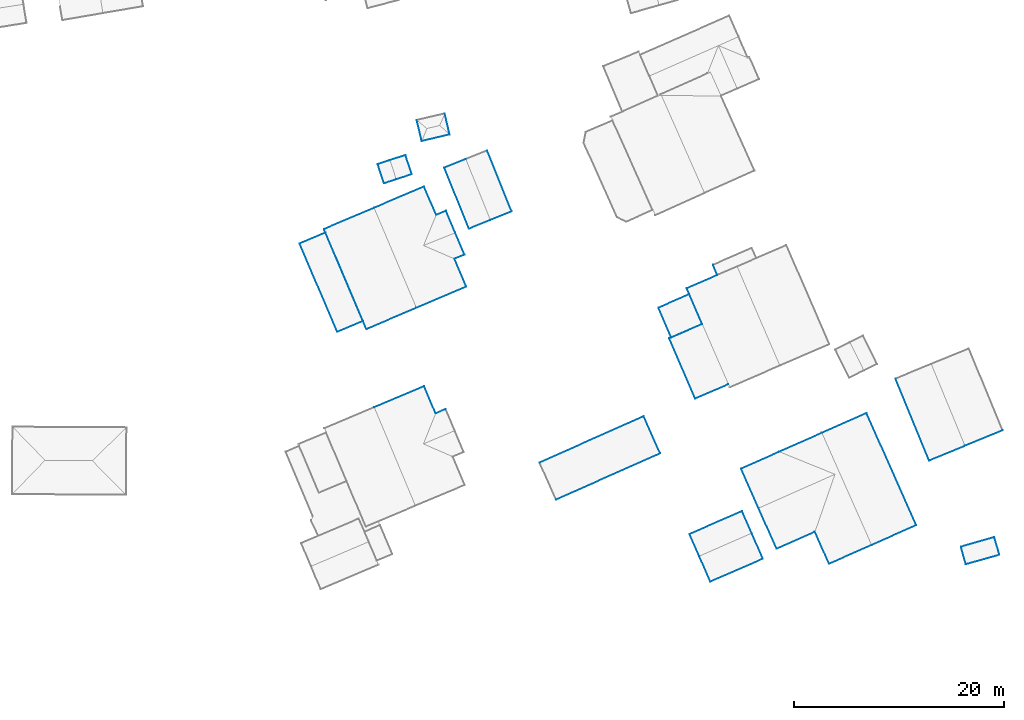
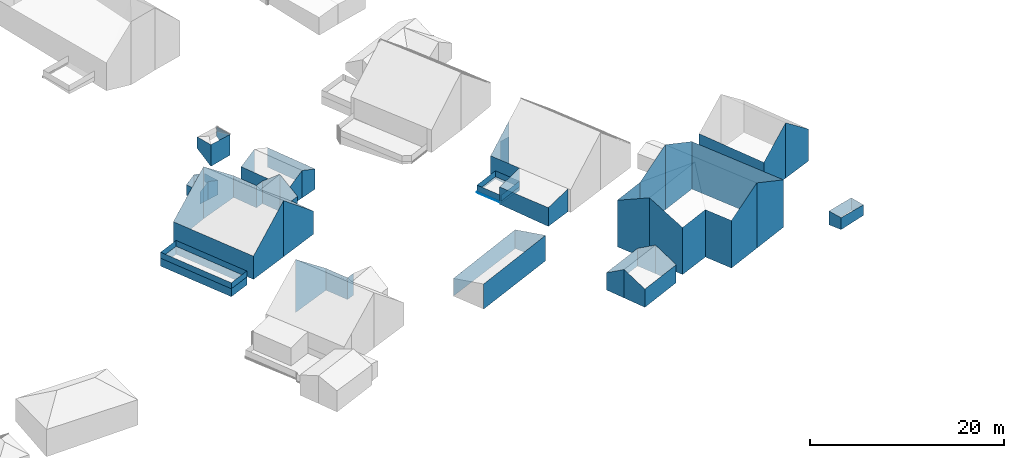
# Not in any storey, part 33 of 59: 84 walls.
"""IFC4 building model written with IfcOpenShell, lengths in metres."""

import ifcopenshell
import ifcopenshell.guid

model = None  # the IFC model being written
_history = None  # IfcOwnerHistory: only IFC2X3 demands one
_inside = {}  # id of a spatial element -> (the spatial element, [elements in it])
_under = {}  # id of a project, library or spatial element -> (it, [spatial elements below it])
_declared = {}  # id of a project -> (the project, [libraries it declares])
_typed = {}  # id of a type object -> (the type object, [elements of that type])
_made_of = {}  # id of a material, layer set ... -> (it, [elements and type objects made of it])


def new_model(schema):
    """Start an empty IFC model of exactly this schema.

    Asked for "IFC4X3", IfcOpenShell would pick the latest addendum, in which some entities
    have other attributes; the version numbers below select the first issue.
    IFC2X3 requires an IfcOwnerHistory on every rooted entity: one is made here for all.
    """
    global model, _history
    if schema == "IFC4X3":
        model = ifcopenshell.file(schema_version=(4, 3, 0, 0))
    else:
        model = ifcopenshell.file(schema=schema)
    _inside.clear()
    _under.clear()
    _declared.clear()
    _typed.clear()
    _made_of.clear()
    _history = None
    if model.schema == "IFC2X3":
        org = make("IfcOrganization", Name="unknown")
        user = make(
            "IfcPersonAndOrganization",
            ThePerson=make("IfcPerson", FamilyName="unknown"),
            TheOrganization=org,
        )
        app = make(
            "IfcApplication",
            ApplicationDeveloper=org,
            Version="unknown",
            ApplicationFullName="unknown",
            ApplicationIdentifier="unknown",
        )
        _history = make(
            "IfcOwnerHistory",
            OwningUser=user,
            OwningApplication=app,
            ChangeAction="ADDED",
            CreationDate=0,
        )
    return model


def make(cls, **values):
    """One entity of the class cls with the attributes given. An attribute that is None is left unset."""
    return model.create_entity(
        cls, **{name: value for name, value in values.items() if value is not None}
    )


def entity(cls, *values):
    """Any entity or typed value of the class cls, its attributes in the order of the schema. None: left unset."""
    e = model.create_entity(cls)
    for i, value in enumerate(values):
        if value is not None:
            e[i] = value
    return e


def rooted(cls, **values):
    """An entity with a GlobalId (a new one), such as an element, a storey or a relation."""
    return make(cls, GlobalId=ifcopenshell.guid.new(), OwnerHistory=_history, **values)


def si_unit(unit_type, name, prefix=None):
    """IfcSIUnit, for example si_unit("LENGTHUNIT", "METRE", prefix="MILLI")."""
    return make("IfcSIUnit", UnitType=unit_type, Prefix=prefix, Name=name)


def converted_unit(unit_type, name, factor, base, dimensions=None, offset=None):
    """IfcConversionBasedUnit, such as the inch: factor (a typed value) times the base unit."""
    return make(
        "IfcConversionBasedUnit"
        if offset is None
        else "IfcConversionBasedUnitWithOffset",
        ConversionOffset=offset,
        Dimensions=None
        if dimensions is None
        else entity("IfcDimensionalExponents", *dimensions),
        UnitType=unit_type,
        Name=name,
        ConversionFactor=make(
            "IfcMeasureWithUnit", ValueComponent=factor, UnitComponent=base
        ),
    )


def assignment(units):
    """IfcUnitAssignment: the units of a project."""
    return None if units is None else make("IfcUnitAssignment", Units=units)


def point(xyz):
    """IfcCartesianPoint."""
    return None if xyz is None else make("IfcCartesianPoint", Coordinates=xyz)


def direction(xyz):
    """IfcDirection."""
    return None if xyz is None else make("IfcDirection", DirectionRatios=xyz)


def frame(location, z_axis=None, x_axis=None):
    """IfcAxis2Placement3D, a coordinate frame: its origin and axes. An axis left out is left unset."""
    return make(
        "IfcAxis2Placement3D",
        Location=point(location),
        Axis=direction(z_axis),
        RefDirection=direction(x_axis),
    )


def origin():
    """The frame at (0, 0, 0) with its axes left unset."""
    return frame((0.0, 0.0, 0.0))


def place(relative_to, where):
    """IfcLocalPlacement: puts the frame where relative to a parent placement (None: the world)."""
    return make(
        "IfcLocalPlacement", PlacementRelTo=relative_to, RelativePlacement=where
    )


def context(
    kind, dimensions, precision=None, world=None, true_north=None, identifier=None
):
    """IfcGeometricRepresentationContext, for example the 3D "Model" context."""
    return make(
        "IfcGeometricRepresentationContext",
        ContextIdentifier=identifier,
        ContextType=kind,
        CoordinateSpaceDimension=dimensions,
        Precision=precision,
        WorldCoordinateSystem=world,
        TrueNorth=true_north,
    )


def subcontext(parent, identifier, kind, view, scale=None):
    """IfcGeometricRepresentationSubContext, for example "Body" below "Model"."""
    return make(
        "IfcGeometricRepresentationSubContext",
        ContextIdentifier=identifier,
        ContextType=kind,
        ParentContext=parent,
        TargetScale=scale,
        TargetView=view,
    )


def project(units=None, contexts=None):
    """IfcProject with its units and contexts."""
    return rooted(
        "IfcProject",
        Name="project",
        RepresentationContexts=contexts,
        UnitsInContext=assignment(units),
    )


def spatial(cls, under=None, at=None, **own):
    """A site, building, storey or space (cls), placed at a placement, below another one or the project."""
    s = rooted(cls, ObjectPlacement=at, **own)
    if under is not None:
        _under.setdefault(under.id(), (under, []))[1].append(s)
    return s


def faces_of(points, faces, orient=None, outer=None):
    """IfcFace entities. A face is a list of loops; a loop is a list of indices into points, from 0.

    orient and outer hold one flag for each loop. By default every Orientation is true, the
    first loop of a face is its IfcFaceOuterBound and the others are IfcFaceBound.
    """
    made = []
    for i, loops in enumerate(faces):
        bounds = []
        for j, loop in enumerate(loops):
            is_outer = j == 0 if outer is None else outer[i][j]
            bounds.append(
                make(
                    "IfcFaceOuterBound" if is_outer else "IfcFaceBound",
                    Bound=make("IfcPolyLoop", Polygon=[points[k] for k in loop]),
                    Orientation=True if orient is None else orient[i][j],
                )
            )
        made.append(make("IfcFace", Bounds=bounds))
    return made


def face_set(faces, orient=None, outer=None):
    """The faces of one IfcConnectedFaceSet. surface_model builds it on its shared points."""
    return ("IfcConnectedFaceSet", faces, orient, outer)


def surface_model(cls, points, shells):
    """IfcFaceBasedSurfaceModel or IfcShellBasedSurfaceModel (cls): surfaces that need not close."""
    shared = [point(p) for p in points]
    made = [make(c, CfsFaces=faces_of(shared, fs, o, b)) for c, fs, o, b in shells]
    if cls == "IfcFaceBasedSurfaceModel":
        return make(cls, FbsmFaces=made)
    return make(cls, SbsmBoundary=made)


def shape(context_of_items, identifier, shape_type, items):
    """IfcShapeRepresentation: the items that make up one representation, for example the "Body"."""
    return make(
        "IfcShapeRepresentation",
        ContextOfItems=context_of_items,
        RepresentationIdentifier=identifier,
        RepresentationType=shape_type,
        Items=items,
    )


def made_of(thing, what):
    """Note that an element or type object is made of a material, layer set ...; save() writes the relation."""
    if what is not None:
        _made_of.setdefault(what.id(), (what, []))[1].append(thing)
    return thing


def element(
    cls,
    number,
    at=None,
    inside=None,
    cuts=None,
    type_object=None,
    material=None,
    context=None,
    identifier="Body",
    shape_type=None,
    held_by="IfcProductDefinitionShape",
    body=None,
    shapes=None,
    **own,
):
    """One element of the class cls, such as IfcWall. Its Tag is "e" and its number.

    at: its placement. inside: the storey or other place that contains it. cuts: it is an
    opening in that element (IfcRelVoidsElement). A single representation is given by context,
    identifier, shape_type and body (its items); several are given by shapes. held_by: the class
    of the entity that holds the representations. save() writes the other relations.
    """
    e = rooted(cls, Tag="e%d" % number, ObjectPlacement=at, **own)
    if body is not None:
        shapes = [shape(context, identifier, shape_type, body)]
    if shapes is not None:
        e.Representation = make(held_by, Representations=shapes)
    if inside is not None:
        _inside.setdefault(inside.id(), (inside, []))[1].append(e)
    if cuts is not None:
        rooted(
            "IfcRelVoidsElement", RelatingBuildingElement=cuts, RelatedOpeningElement=e
        )
    if type_object is not None:
        _typed.setdefault(type_object.id(), (type_object, []))[1].append(e)
    return made_of(e, material)


def aggregate(whole, parts):
    """IfcRelAggregates: a whole, such as a stair, and the parts it consists of."""
    return rooted("IfcRelAggregates", RelatingObject=whole, RelatedObjects=parts)


def save(model, path):
    """Write the relations noted so far, then the file.

    IfcRelAggregates (storeys below a building ...), IfcRelContainedInSpatialStructure (elements
    in a storey), IfcRelDefinesByType, IfcRelAssociatesMaterial and IfcRelDeclares: one each for
    every whole, place, type object, material and project.
    """
    for whole, parts in _under.values():
        aggregate(whole, parts)
    for where, things in _inside.values():
        rooted(
            "IfcRelContainedInSpatialStructure",
            RelatedElements=things,
            RelatingStructure=where,
        )
    for kind, things in _typed.values():
        rooted("IfcRelDefinesByType", RelatedObjects=things, RelatingType=kind)
    for what, things in _made_of.values():
        rooted("IfcRelAssociatesMaterial", RelatedObjects=things, RelatingMaterial=what)
    for by, libraries in _declared.values():
        rooted("IfcRelDeclares", RelatingContext=by, RelatedDefinitions=libraries)
    model.write(path)


model = new_model("IFC4")

# Units and contexts
model_context = context("Model", 3, precision=1e-05, world=origin())
body_context = subcontext(model_context, "Body", "Model", "MODEL_VIEW")
ifc_project = project(units=[converted_unit("PLANEANGLEUNIT", "DEGREE", entity("IfcRatioMeasure", 0.0174532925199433), si_unit("PLANEANGLEUNIT", "RADIAN"), dimensions=[0, 0, 0, 0, 0, 0, 0]), si_unit("AREAUNIT", "SQUARE_METRE"), si_unit("LENGTHUNIT", "METRE")], contexts=[model_context])

# Site, building
site_placement = place(None, origin())
site = spatial("IfcSite", under=ifc_project, at=site_placement, Name="_site")
building_1_placement = place(site_placement, origin())
building_1 = spatial("IfcBuilding", under=site, at=building_1_placement, Name="_building")

# Walls
wall_1_placement = place(building_1_placement, origin())
element("IfcWall", 1, at=wall_1_placement, inside=building_1, Name="Wall", PredefinedType="NOTDEFINED", context=body_context, shape_type="SurfaceModel", body=[
    surface_model("IfcFaceBasedSurfaceModel", [(244.68, 198.119, 221.99), (248.72, 199.91, 224.23), (248.72, 199.91, 216.034), (244.68, 198.119, 216.092)], [face_set([[[0, 1, 2, 3]]])]),
])
wall_2_placement = place(building_1_placement, origin())
element("IfcWall", 2, at=wall_2_placement, inside=building_1, Name="Wall", PredefinedType="NOTDEFINED", context=body_context, shape_type="SurfaceModel", body=[
    surface_model("IfcFaceBasedSurfaceModel", [(253.45, 189.25, 224.23), (249.41, 187.461, 221.99), (249.41, 187.461, 216.009), (253.45, 189.25, 216.008)], [face_set([[[0, 1, 2, 3]]])]),
])
wall_3_placement = place(building_1_placement, origin())
element("IfcWall", 3, at=wall_3_placement, inside=building_1, Name="Wall", PredefinedType="NOTDEFINED", context=body_context, shape_type="SurfaceModel", body=[
    surface_model("IfcFaceBasedSurfaceModel", [(257.7, 191.131, 221.99), (253.45, 189.25, 224.23), (253.45, 189.25, 216.008), (257.7, 191.131, 216.008)], [face_set([[[0, 1, 2, 3]]])]),
])
wall_4_placement = place(building_1_placement, origin())
element("IfcWall", 4, at=wall_4_placement, inside=building_1, Name="Wall", PredefinedType="NOTDEFINED", context=body_context, shape_type="SurfaceModel", body=[
    surface_model("IfcFaceBasedSurfaceModel", [(248.72, 199.91, 224.23), (252.97, 201.801, 221.99), (252.97, 201.801, 216.002), (248.72, 199.91, 216.034)], [face_set([[[0, 1, 2, 3]]])]),
])
wall_5_placement = place(building_1_placement, origin())
element("IfcWall", 5, at=wall_5_placement, inside=building_1, Name="Wall", PredefinedType="NOTDEFINED", context=body_context, shape_type="SurfaceModel", body=[
    surface_model("IfcFaceBasedSurfaceModel", [(242.7, 192.76, 223.99), (241.04, 196.51, 221.99), (241.04, 196.51, 216.143), (242.7, 192.76, 216.111)], [face_set([[[0, 1, 2, 3]]])]),
])
wall_6_placement = place(building_1_placement, origin())
element("IfcWall", 6, at=wall_6_placement, inside=building_1, Name="Wall", PredefinedType="NOTDEFINED", context=body_context, shape_type="SurfaceModel", body=[
    surface_model("IfcFaceBasedSurfaceModel", [(244.42, 188.891, 221.99), (242.7, 192.76, 223.99), (242.7, 192.76, 216.111), (244.42, 188.891, 216.076)], [face_set([[[0, 1, 2, 3]]])]),
])
wall_7_placement = place(building_1_placement, origin())
element("IfcWall", 7, at=wall_7_placement, inside=building_1, Name="Wall", PredefinedType="NOTDEFINED", context=body_context, shape_type="SurfaceModel", body=[
    surface_model("IfcFaceBasedSurfaceModel", [(241.04, 196.51, 221.99), (244.68, 198.119, 221.99), (244.68, 198.119, 216.092), (241.04, 196.51, 216.143)], [face_set([[[0, 1, 2, 3]]])]),
])
wall_8_placement = place(building_1_placement, origin())
element("IfcWall", 8, at=wall_8_placement, inside=building_1, Name="Wall", PredefinedType="NOTDEFINED", context=body_context, shape_type="SurfaceModel", body=[
    surface_model("IfcFaceBasedSurfaceModel", [(248.06, 190.51, 221.99), (244.42, 188.891, 221.99), (244.42, 188.891, 216.076), (248.06, 190.51, 216.024)], [face_set([[[0, 1, 2, 3]]])]),
])
wall_9_placement = place(building_1_placement, origin())
element("IfcWall", 9, at=wall_9_placement, inside=building_1, Name="Wall", PredefinedType="NOTDEFINED", context=body_context, shape_type="SurfaceModel", body=[
    surface_model("IfcFaceBasedSurfaceModel", [(249.41, 187.461, 221.99), (248.06, 190.51, 221.99), (248.06, 190.51, 216.024), (249.41, 187.461, 216.009)], [face_set([[[0, 1, 2, 3]]])]),
])
wall_10_placement = place(building_1_placement, origin())
element("IfcWall", 10, at=wall_10_placement, inside=building_1, Name="Wall", PredefinedType="NOTDEFINED", context=body_context, shape_type="SurfaceModel", body=[
    surface_model("IfcFaceBasedSurfaceModel", [(252.97, 201.801, 221.99), (257.7, 191.131, 221.99), (257.7, 191.131, 216.008), (252.97, 201.801, 216.002)], [face_set([[[0, 1, 2, 3]]])]),
])

# Building
building_2_placement = place(site_placement, origin())
building_2 = spatial("IfcBuilding", under=site, at=building_2_placement, Name="_building")

# Walls
wall_11_placement = place(building_2_placement, origin())
element("IfcWall", 11, at=wall_11_placement, inside=building_2, Name="Wall", PredefinedType="NOTDEFINED", context=body_context, shape_type="SurfaceModel", body=[
    surface_model("IfcFaceBasedSurfaceModel", [(265.61, 188.32, 217.78), (262.42, 187.41, 217.82), (262.42, 187.41, 216.321), (265.61, 188.32, 216.447)], [face_set([[[0, 1, 2, 3]]])]),
])
wall_12_placement = place(building_2_placement, origin())
element("IfcWall", 12, at=wall_12_placement, inside=building_2, Name="Wall", PredefinedType="NOTDEFINED", context=body_context, shape_type="SurfaceModel", body=[
    surface_model("IfcFaceBasedSurfaceModel", [(265.13, 189.99, 217.82), (265.61, 188.32, 217.78), (265.61, 188.32, 216.447), (265.13, 189.99, 216.212)], [face_set([[[0, 1, 2, 3]]])]),
])
wall_13_placement = place(building_2_placement, origin())
element("IfcWall", 13, at=wall_13_placement, inside=building_2, Name="Wall", PredefinedType="NOTDEFINED", context=body_context, shape_type="SurfaceModel", body=[
    surface_model("IfcFaceBasedSurfaceModel", [(261.95, 189.08, 217.82), (265.13, 189.99, 217.82), (265.13, 189.99, 216.212), (261.95, 189.08, 216.087)], [face_set([[[0, 1, 2, 3]]])]),
])
wall_14_placement = place(building_2_placement, origin())
element("IfcWall", 14, at=wall_14_placement, inside=building_2, Name="Wall", PredefinedType="NOTDEFINED", context=body_context, shape_type="SurfaceModel", body=[
    surface_model("IfcFaceBasedSurfaceModel", [(262.42, 187.41, 217.82), (261.95, 189.08, 217.82), (261.95, 189.08, 216.087), (262.42, 187.41, 216.321)], [face_set([[[0, 1, 2, 3]]])]),
])

# Building
building_3_placement = place(site_placement, origin())
building_3 = spatial("IfcBuilding", under=site, at=building_3_placement, Name="_building")

# Walls
wall_15_placement = place(building_3_placement, origin())
element("IfcWall", 15, at=wall_15_placement, inside=building_3, Name="Wall", PredefinedType="NOTDEFINED", context=body_context, shape_type="SurfaceModel", body=[
    surface_model("IfcFaceBasedSurfaceModel", [(262.33, 198.68, 222.97), (258.93, 197.279, 220.02), (258.93, 197.279, 216.005), (262.33, 198.68, 216.004)], [face_set([[[0, 1, 2, 3]]])]),
])
wall_16_placement = place(building_3_placement, origin())
element("IfcWall", 16, at=wall_16_placement, inside=building_3, Name="Wall", PredefinedType="NOTDEFINED", context=body_context, shape_type="SurfaceModel", body=[
    surface_model("IfcFaceBasedSurfaceModel", [(265.91, 200.16, 220.02), (262.33, 198.68, 222.97), (262.33, 198.68, 216.004), (265.91, 200.16, 216.002)], [face_set([[[0, 1, 2, 3]]])]),
])
wall_17_placement = place(building_3_placement, origin())
element("IfcWall", 17, at=wall_17_placement, inside=building_3, Name="Wall", PredefinedType="NOTDEFINED", context=body_context, shape_type="SurfaceModel", body=[
    surface_model("IfcFaceBasedSurfaceModel", [(258.93, 197.279, 220.02), (255.73, 205.07, 220.02), (255.73, 205.07, 216.001), (258.93, 197.279, 216.005)], [face_set([[[0, 1, 2, 3]]])]),
])

# Building
building_4_placement = place(site_placement, origin())
building_4 = spatial("IfcBuilding", under=site, at=building_4_placement, Name="_building")

# Walls
wall_18_placement = place(building_4_placement, origin())
element("IfcWall", 18, at=wall_18_placement, inside=building_4, Name="Wall", PredefinedType="NOTDEFINED", context=body_context, shape_type="SurfaceModel", body=[
    surface_model("IfcFaceBasedSurfaceModel", [(207.63, 225.859, 219.13), (209.11, 226.34, 218.48), (209.11, 226.34, 217.508), (207.63, 225.859, 217.347)], [face_set([[[0, 1, 2, 3]]])]),
])
wall_19_placement = place(building_4_placement, origin())
element("IfcWall", 19, at=wall_19_placement, inside=building_4, Name="Wall", PredefinedType="NOTDEFINED", context=body_context, shape_type="SurfaceModel", body=[
    surface_model("IfcFaceBasedSurfaceModel", [(206.48, 225.48, 218.48), (207.63, 225.859, 219.13), (207.63, 225.859, 217.347), (206.48, 225.48, 217.162)], [face_set([[[0, 1, 2, 3]]])]),
])
wall_20_placement = place(building_4_placement, origin())
element("IfcWall", 20, at=wall_20_placement, inside=building_4, Name="Wall", PredefinedType="NOTDEFINED", context=body_context, shape_type="SurfaceModel", body=[
    surface_model("IfcFaceBasedSurfaceModel", [(208.23, 224.029, 219.13), (207.07, 223.65, 218.48), (207.07, 223.65, 216.947), (208.23, 224.029, 216.84)], [face_set([[[0, 1, 2, 3]]])]),
])
wall_21_placement = place(building_4_placement, origin())
element("IfcWall", 21, at=wall_21_placement, inside=building_4, Name="Wall", PredefinedType="NOTDEFINED", context=body_context, shape_type="SurfaceModel", body=[
    surface_model("IfcFaceBasedSurfaceModel", [(209.71, 224.52, 218.48), (208.23, 224.029, 219.13), (208.23, 224.029, 216.84), (209.71, 224.52, 216.669)], [face_set([[[0, 1, 2, 3]]])]),
])
wall_22_placement = place(building_4_placement, origin())
element("IfcWall", 22, at=wall_22_placement, inside=building_4, Name="Wall", PredefinedType="NOTDEFINED", context=body_context, shape_type="SurfaceModel", body=[
    surface_model("IfcFaceBasedSurfaceModel", [(207.07, 223.65, 218.48), (206.48, 225.48, 218.48), (206.48, 225.48, 217.162), (207.07, 223.65, 216.947)], [face_set([[[0, 1, 2, 3]]])]),
])
wall_23_placement = place(building_4_placement, origin())
element("IfcWall", 23, at=wall_23_placement, inside=building_4, Name="Wall", PredefinedType="NOTDEFINED", context=body_context, shape_type="SurfaceModel", body=[
    surface_model("IfcFaceBasedSurfaceModel", [(209.11, 226.34, 218.48), (209.71, 224.52, 218.48), (209.71, 224.52, 216.669), (209.11, 226.34, 217.508)], [face_set([[[0, 1, 2, 3]]])]),
])

# Building
building_5_placement = place(site_placement, origin())
building_5 = spatial("IfcBuilding", under=site, at=building_5_placement, Name="_building")

# Walls
wall_24_placement = place(building_5_placement, origin())
element("IfcWall", 24, at=wall_24_placement, inside=building_5, Name="Wall", PredefinedType="NOTDEFINED", context=body_context, shape_type="SurfaceModel", body=[
    surface_model("IfcFaceBasedSurfaceModel", [(235.87, 213.66, 218.99), (238.78, 214.93, 221.57), (238.78, 214.93, 216.201), (235.87, 213.66, 216.348)], [face_set([[[0, 1, 2, 3]]])]),
])
wall_25_placement = place(building_5_placement, origin())
element("IfcWall", 25, at=wall_25_placement, inside=building_5, Name="Wall", PredefinedType="NOTDEFINED", context=body_context, shape_type="SurfaceModel", body=[
    surface_model("IfcFaceBasedSurfaceModel", [(238.78, 214.93, 219.6), (238.36, 215.891, 218.62), (238.36, 215.891, 216.178), (238.78, 214.93, 216.201)], [face_set([[[0, 1, 2, 3]]])]),
])
wall_26_placement = place(building_5_placement, origin())
element("IfcWall", 26, at=wall_26_placement, inside=building_5, Name="Wall", PredefinedType="NOTDEFINED", context=body_context, shape_type="SurfaceModel", body=[
    surface_model("IfcFaceBasedSurfaceModel", [(237.34, 210.27, 218.99), (235.87, 213.66, 218.99), (235.87, 213.66, 216.348), (237.34, 210.27, 216.163)], [face_set([[[0, 1, 2, 3]]])]),
])
wall_27_placement = place(building_5_placement, origin())
element("IfcWall", 27, at=wall_27_placement, inside=building_5, Name="Wall", PredefinedType="NOTDEFINED", context=body_context, shape_type="SurfaceModel", body=[
    surface_model("IfcFaceBasedSurfaceModel", [(234.2, 208.9, 218.54), (237.34, 210.27, 218.99), (237.34, 210.27, 216.163), (234.2, 208.9, 216.363)], [face_set([[[0, 1, 2, 3]]])]),
])
wall_28_placement = place(building_5_placement, origin())
element("IfcWall", 28, at=wall_28_placement, inside=building_5, Name="Wall", PredefinedType="NOTDEFINED", context=body_context, shape_type="SurfaceModel", body=[
    surface_model("IfcFaceBasedSurfaceModel", [(239.83, 204.539, 218.99), (236.68, 203.18, 218.54), (236.68, 203.18, 216.177), (239.83, 204.539, 216.128)], [face_set([[[0, 1, 2, 3]]])]),
])
wall_29_placement = place(building_5_placement, origin())
element("IfcWall", 29, at=wall_29_placement, inside=building_5, Name="Wall", PredefinedType="NOTDEFINED", context=body_context, shape_type="SurfaceModel", body=[
    surface_model("IfcFaceBasedSurfaceModel", [(236.68, 203.18, 218.54), (234.2, 208.9, 218.54), (234.2, 208.9, 216.363), (236.68, 203.18, 216.177)], [face_set([[[0, 1, 2, 3]]])]),
])
wall_30_placement = place(building_5_placement, origin())
element("IfcWall", 30, at=wall_30_placement, inside=building_5, Name="Wall", PredefinedType="NOTDEFINED", context=body_context, shape_type="SurfaceModel", body=[
    surface_model("IfcFaceBasedSurfaceModel", [(233.18, 211.82, 216.61), (236.11, 213.1, 216.61), (236.11, 213.1, 217.36), (233.18, 211.82, 217.36)], [face_set([[[0, 1, 2, 3]]])]),
])
wall_31_placement = place(building_5_placement, origin())
element("IfcWall", 31, at=wall_31_placement, inside=building_5, Name="Wall", PredefinedType="NOTDEFINED", context=body_context, shape_type="SurfaceModel", body=[
    surface_model("IfcFaceBasedSurfaceModel", [(234.4, 208.99, 216.61), (233.18, 211.82, 216.61), (233.18, 211.82, 217.36), (234.4, 208.99, 217.36)], [face_set([[[0, 1, 2, 3]]])]),
])
wall_32_placement = place(building_5_placement, origin())
element("IfcWall", 32, at=wall_32_placement, inside=building_5, Name="Wall", PredefinedType="NOTDEFINED", context=body_context, shape_type="SurfaceModel", body=[
    surface_model("IfcFaceBasedSurfaceModel", [(237.34, 210.27, 216.61), (234.4, 208.99, 216.61), (234.4, 208.99, 217.36), (237.34, 210.27, 217.36)], [face_set([[[0, 1, 2, 3]]])]),
])
wall_33_placement = place(building_5_placement, origin())
element("IfcWall", 33, at=wall_33_placement, inside=building_5, Name="Wall", PredefinedType="NOTDEFINED", context=body_context, shape_type="SurfaceModel", body=[
    surface_model("IfcFaceBasedSurfaceModel", [(236.11, 213.1, 216.61), (237.34, 210.27, 216.61), (237.34, 210.27, 217.36), (236.11, 213.1, 217.36)], [face_set([[[0, 1, 2, 3]]])]),
])
wall_34_placement = place(building_5_placement, origin())
element("IfcWall", 34, at=wall_34_placement, inside=building_5, Name="Wall", PredefinedType="NOTDEFINED", context=body_context, shape_type="SurfaceModel", body=[
    surface_model("IfcFaceBasedSurfaceModel", [(233.18, 211.82, 216.61), (236.11, 213.1, 216.61), (236.11, 213.1, 217.36), (233.18, 211.82, 217.36)], [face_set([[[0, 1, 2, 3]]])]),
])
wall_35_placement = place(building_5_placement, origin())
element("IfcWall", 35, at=wall_35_placement, inside=building_5, Name="Wall", PredefinedType="NOTDEFINED", context=body_context, shape_type="SurfaceModel", body=[
    surface_model("IfcFaceBasedSurfaceModel", [(234.4, 208.99, 216.61), (233.18, 211.82, 216.61), (233.18, 211.82, 217.36), (234.4, 208.99, 217.36)], [face_set([[[0, 1, 2, 3]]])]),
])
wall_36_placement = place(building_5_placement, origin())
element("IfcWall", 36, at=wall_36_placement, inside=building_5, Name="Wall", PredefinedType="NOTDEFINED", context=body_context, shape_type="SurfaceModel", body=[
    surface_model("IfcFaceBasedSurfaceModel", [(237.34, 210.27, 216.61), (234.4, 208.99, 216.61), (234.4, 208.99, 217.36), (237.34, 210.27, 217.36)], [face_set([[[0, 1, 2, 3]]])]),
])
wall_37_placement = place(building_5_placement, origin())
element("IfcWall", 37, at=wall_37_placement, inside=building_5, Name="Wall", PredefinedType="NOTDEFINED", context=body_context, shape_type="SurfaceModel", body=[
    surface_model("IfcFaceBasedSurfaceModel", [(236.11, 213.1, 216.61), (237.34, 210.27, 216.61), (237.34, 210.27, 217.36), (236.11, 213.1, 217.36)], [face_set([[[0, 1, 2, 3]]])]),
])
wall_38_placement = place(building_5_placement, origin())
element("IfcWall", 38, at=wall_38_placement, inside=building_5, Name="Wall", PredefinedType="NOTDEFINED", context=body_context, shape_type="SurfaceModel", body=[
    surface_model("IfcFaceBasedSurfaceModel", [(234.4, 208.99, 216.61), (233.18, 211.82, 216.61), (233.18, 211.82, 216.382), (234.4, 208.99, 216.359)], [face_set([[[0, 1, 2, 3]]])]),
])
wall_39_placement = place(building_5_placement, origin())
element("IfcWall", 39, at=wall_39_placement, inside=building_5, Name="Wall", PredefinedType="NOTDEFINED", context=body_context, shape_type="SurfaceModel", body=[
    surface_model("IfcFaceBasedSurfaceModel", [(233.18, 211.82, 216.61), (236.11, 213.1, 216.61), (236.11, 213.1, 216.32), (233.18, 211.82, 216.382)], [face_set([[[0, 1, 2, 3]]])]),
])
wall_40_placement = place(building_5_placement, origin())
element("IfcWall", 40, at=wall_40_placement, inside=building_5, Name="Wall", PredefinedType="NOTDEFINED", context=body_context, shape_type="SurfaceModel", body=[
    surface_model("IfcFaceBasedSurfaceModel", [(237.34, 210.27, 216.61), (234.4, 208.99, 216.61), (234.4, 208.99, 216.359), (237.34, 210.27, 216.163)], [face_set([[[0, 1, 2, 3]]])]),
])
wall_41_placement = place(building_5_placement, origin())
element("IfcWall", 41, at=wall_41_placement, inside=building_5, Name="Wall", PredefinedType="NOTDEFINED", context=body_context, shape_type="SurfaceModel", body=[
    surface_model("IfcFaceBasedSurfaceModel", [(236.11, 213.1, 216.61), (237.34, 210.27, 216.61), (237.34, 210.27, 216.163), (236.11, 213.1, 216.32)], [face_set([[[0, 1, 2, 3]]])]),
])

# Building
building_6_placement = place(site_placement, origin())
building_6 = spatial("IfcBuilding", under=site, at=building_6_placement, Name="_building")

# Walls
wall_42_placement = place(building_6_placement, origin())
element("IfcWall", 42, at=wall_42_placement, inside=building_6, Name="Wall", PredefinedType="NOTDEFINED", context=body_context, shape_type="SurfaceModel", body=[
    surface_model("IfcFaceBasedSurfaceModel", [(206.14, 202.35, 223.22), (210.89, 204.35, 219.22), (210.89, 204.35, 216.457), (206.14, 202.35, 216.542)], [face_set([[[0, 1, 2, 3]]])]),
])
wall_43_placement = place(building_6_placement, origin())
element("IfcWall", 43, at=wall_43_placement, inside=building_6, Name="Wall", PredefinedType="NOTDEFINED", context=body_context, shape_type="SurfaceModel", body=[
    surface_model("IfcFaceBasedSurfaceModel", [(211.98, 201.77, 219.22), (212.94, 202.18, 219.22), (212.94, 202.18, 216.461), (211.98, 201.77, 216.47)], [face_set([[[0, 1, 2, 3]]])]),
])
wall_44_placement = place(building_6_placement, origin())
element("IfcWall", 44, at=wall_44_placement, inside=building_6, Name="Wall", PredefinedType="NOTDEFINED", context=body_context, shape_type="SurfaceModel", body=[
    surface_model("IfcFaceBasedSurfaceModel", [(210.89, 204.35, 219.22), (211.98, 201.77, 219.22), (211.98, 201.77, 216.47), (210.89, 204.35, 216.457)], [face_set([[[0, 1, 2, 3]]])]),
])

# Building
building_7_placement = place(site_placement, origin())
building_7 = spatial("IfcBuilding", under=site, at=building_7_placement, Name="_building")

# Walls
wall_45_placement = place(building_7_placement, origin())
element("IfcWall", 45, at=wall_45_placement, inside=building_7, Name="Wall", PredefinedType="NOTDEFINED", context=body_context, shape_type="SurfaceModel", body=[
    surface_model("IfcFaceBasedSurfaceModel", [(212.85, 230.289, 220.64), (213.32, 228.301, 220.7), (213.32, 228.301, 218.105), (212.85, 230.289, 219.426)], [face_set([[[0, 1, 2, 3]]])]),
])
wall_46_placement = place(building_7_placement, origin())
element("IfcWall", 46, at=wall_46_placement, inside=building_7, Name="Wall", PredefinedType="NOTDEFINED", context=body_context, shape_type="SurfaceModel", body=[
    surface_model("IfcFaceBasedSurfaceModel", [(210.66, 227.67, 220.72), (210.19, 229.67, 220.66), (210.19, 229.67, 219.202), (210.66, 227.67, 217.989)], [face_set([[[0, 1, 2, 3]]])]),
])
wall_47_placement = place(building_7_placement, origin())
element("IfcWall", 47, at=wall_47_placement, inside=building_7, Name="Wall", PredefinedType="NOTDEFINED", context=body_context, shape_type="SurfaceModel", body=[
    surface_model("IfcFaceBasedSurfaceModel", [(213.32, 228.301, 220.7), (210.66, 227.67, 220.72), (210.66, 227.67, 217.989), (213.32, 228.301, 218.105)], [face_set([[[0, 1, 2, 3]]])]),
])

# Building
building_8_placement = place(site_placement, origin())
building_8 = spatial("IfcBuilding", under=site, at=building_8_placement, Name="_building")

# Walls
wall_48_placement = place(building_8_placement, origin())
element("IfcWall", 48, at=wall_48_placement, inside=building_8, Name="Wall", PredefinedType="NOTDEFINED", context=body_context, shape_type="SurfaceModel", body=[
    surface_model("IfcFaceBasedSurfaceModel", [(212.81, 225.141, 218.73), (214.85, 225.961, 219.73), (214.85, 225.961, 216.373), (212.81, 225.141, 216.493)], [face_set([[[0, 1, 2, 3]]])]),
])
wall_49_placement = place(building_8_placement, origin())
element("IfcWall", 49, at=wall_49_placement, inside=building_8, Name="Wall", PredefinedType="NOTDEFINED", context=body_context, shape_type="SurfaceModel", body=[
    surface_model("IfcFaceBasedSurfaceModel", [(217.18, 220.16, 219.75), (215.15, 219.34, 218.73), (215.15, 219.34, 216.415), (217.18, 220.16, 216.291)], [face_set([[[0, 1, 2, 3]]])]),
])
wall_50_placement = place(building_8_placement, origin())
element("IfcWall", 50, at=wall_50_placement, inside=building_8, Name="Wall", PredefinedType="NOTDEFINED", context=body_context, shape_type="SurfaceModel", body=[
    surface_model("IfcFaceBasedSurfaceModel", [(219.21, 220.98, 218.73), (217.18, 220.16, 219.75), (217.18, 220.16, 216.291), (219.21, 220.98, 216.199)], [face_set([[[0, 1, 2, 3]]])]),
])
wall_51_placement = place(building_8_placement, origin())
element("IfcWall", 51, at=wall_51_placement, inside=building_8, Name="Wall", PredefinedType="NOTDEFINED", context=body_context, shape_type="SurfaceModel", body=[
    surface_model("IfcFaceBasedSurfaceModel", [(215.15, 219.34, 218.73), (212.81, 225.141, 218.73), (212.81, 225.141, 216.493), (215.15, 219.34, 216.415)], [face_set([[[0, 1, 2, 3]]])]),
])
wall_52_placement = place(building_8_placement, origin())
element("IfcWall", 52, at=wall_52_placement, inside=building_8, Name="Wall", PredefinedType="NOTDEFINED", context=body_context, shape_type="SurfaceModel", body=[
    surface_model("IfcFaceBasedSurfaceModel", [(216.87, 226.779, 218.73), (219.21, 220.98, 218.73), (219.21, 220.98, 216.199), (216.87, 226.779, 216.269)], [face_set([[[0, 1, 2, 3]]])]),
])

# Building
building_9_placement = place(site_placement, origin())
building_9 = spatial("IfcBuilding", under=site, at=building_9_placement, Name="_building")

# Walls
wall_53_placement = place(building_9_placement, origin())
element("IfcWall", 53, at=wall_53_placement, inside=building_9, Name="Wall", PredefinedType="NOTDEFINED", context=body_context, shape_type="SurfaceModel", body=[
    surface_model("IfcFaceBasedSurfaceModel", [(201.36, 219.301, 219.36), (206.12, 221.32, 223.4), (206.12, 221.32, 216.833), (201.36, 219.301, 216.615)], [face_set([[[0, 1, 2, 3]]])]),
])
wall_54_placement = place(building_9_placement, origin())
element("IfcWall", 54, at=wall_54_placement, inside=building_9, Name="Wall", PredefinedType="NOTDEFINED", context=body_context, shape_type="SurfaceModel", body=[
    surface_model("IfcFaceBasedSurfaceModel", [(206.12, 221.32, 223.4), (210.88, 223.35, 219.36), (210.88, 223.35, 216.615), (206.12, 221.32, 216.833)], [face_set([[[0, 1, 2, 3]]])]),
])
wall_55_placement = place(building_9_placement, origin())
element("IfcWall", 55, at=wall_55_placement, inside=building_9, Name="Wall", PredefinedType="NOTDEFINED", context=body_context, shape_type="SurfaceModel", body=[
    surface_model("IfcFaceBasedSurfaceModel", [(210.15, 211.801, 223.49), (205.4, 209.789, 219.38), (205.4, 209.789, 216.455), (210.15, 211.801, 216.418)], [face_set([[[0, 1, 2, 3]]])]),
])
wall_56_placement = place(building_9_placement, origin())
element("IfcWall", 56, at=wall_56_placement, inside=building_9, Name="Wall", PredefinedType="NOTDEFINED", context=body_context, shape_type="SurfaceModel", body=[
    surface_model("IfcFaceBasedSurfaceModel", [(214.9, 213.82, 219.27), (210.15, 211.801, 223.49), (210.15, 211.801, 216.418), (214.9, 213.82, 216.403)], [face_set([[[0, 1, 2, 3]]])]),
])
wall_57_placement = place(building_9_placement, origin())
element("IfcWall", 57, at=wall_57_placement, inside=building_9, Name="Wall", PredefinedType="NOTDEFINED", context=body_context, shape_type="SurfaceModel", body=[
    surface_model("IfcFaceBasedSurfaceModel", [(212.96, 221.039, 219.35), (213.84, 218.949, 221.17), (213.84, 218.949, 216.481), (212.96, 221.039, 216.521)], [face_set([[[0, 1, 2, 3]]])]),
])
wall_58_placement = place(building_9_placement, origin())
element("IfcWall", 58, at=wall_58_placement, inside=building_9, Name="Wall", PredefinedType="NOTDEFINED", context=body_context, shape_type="SurfaceModel", body=[
    surface_model("IfcFaceBasedSurfaceModel", [(213.84, 218.949, 221.17), (214.73, 216.869, 219.35), (214.73, 216.869, 216.421), (213.84, 218.949, 216.481)], [face_set([[[0, 1, 2, 3]]])]),
])
wall_59_placement = place(building_9_placement, origin())
element("IfcWall", 59, at=wall_59_placement, inside=building_9, Name="Wall", PredefinedType="NOTDEFINED", context=body_context, shape_type="SurfaceModel", body=[
    surface_model("IfcFaceBasedSurfaceModel", [(210.88, 223.35, 219.36), (212.03, 220.65, 219.35), (212.03, 220.65, 216.547), (210.88, 223.35, 216.615)], [face_set([[[0, 1, 2, 3]]])]),
])
wall_60_placement = place(building_9_placement, origin())
element("IfcWall", 60, at=wall_60_placement, inside=building_9, Name="Wall", PredefinedType="NOTDEFINED", context=body_context, shape_type="SurfaceModel", body=[
    surface_model("IfcFaceBasedSurfaceModel", [(212.03, 220.65, 219.35), (212.96, 221.039, 219.35), (212.96, 221.039, 216.521), (212.03, 220.65, 216.547)], [face_set([[[0, 1, 2, 3]]])]),
])
wall_61_placement = place(building_9_placement, origin())
element("IfcWall", 61, at=wall_61_placement, inside=building_9, Name="Wall", PredefinedType="NOTDEFINED", context=body_context, shape_type="SurfaceModel", body=[
    surface_model("IfcFaceBasedSurfaceModel", [(205.4, 209.789, 219.38), (201.36, 219.301, 219.36), (201.36, 219.301, 216.615), (205.4, 209.789, 216.455)], [face_set([[[0, 1, 2, 3]]])]),
])
wall_62_placement = place(building_9_placement, origin())
element("IfcWall", 62, at=wall_62_placement, inside=building_9, Name="Wall", PredefinedType="NOTDEFINED", context=body_context, shape_type="SurfaceModel", body=[
    surface_model("IfcFaceBasedSurfaceModel", [(214.73, 216.869, 219.35), (213.77, 216.471, 219.33), (213.77, 216.471, 216.427), (214.73, 216.869, 216.421)], [face_set([[[0, 1, 2, 3]]])]),
])
wall_63_placement = place(building_9_placement, origin())
element("IfcWall", 63, at=wall_63_placement, inside=building_9, Name="Wall", PredefinedType="NOTDEFINED", context=body_context, shape_type="SurfaceModel", body=[
    surface_model("IfcFaceBasedSurfaceModel", [(213.77, 216.471, 219.33), (214.9, 213.82, 219.27), (214.9, 213.82, 216.403), (213.77, 216.471, 216.427)], [face_set([[[0, 1, 2, 3]]])]),
])
wall_64_placement = place(building_9_placement, origin())
element("IfcWall", 64, at=wall_64_placement, inside=building_9, Name="Wall", PredefinedType="NOTDEFINED", context=body_context, shape_type="SurfaceModel", body=[
    surface_model("IfcFaceBasedSurfaceModel", [(201.5, 218.971, 216.41), (205.07, 210.561, 216.41), (205.07, 210.561, 217.16), (201.5, 218.971, 217.16)], [face_set([[[0, 1, 2, 3]]])]),
])
wall_65_placement = place(building_9_placement, origin())
element("IfcWall", 65, at=wall_65_placement, inside=building_9, Name="Wall", PredefinedType="NOTDEFINED", context=body_context, shape_type="SurfaceModel", body=[
    surface_model("IfcFaceBasedSurfaceModel", [(199.05, 217.93, 216.41), (201.5, 218.971, 216.41), (201.5, 218.971, 217.16), (199.05, 217.93, 217.16)], [face_set([[[0, 1, 2, 3]]])]),
])
wall_66_placement = place(building_9_placement, origin())
element("IfcWall", 66, at=wall_66_placement, inside=building_9, Name="Wall", PredefinedType="NOTDEFINED", context=body_context, shape_type="SurfaceModel", body=[
    surface_model("IfcFaceBasedSurfaceModel", [(202.62, 209.52, 216.41), (199.05, 217.93, 216.41), (199.05, 217.93, 217.16), (202.62, 209.52, 217.16)], [face_set([[[0, 1, 2, 3]]])]),
])
wall_67_placement = place(building_9_placement, origin())
element("IfcWall", 67, at=wall_67_placement, inside=building_9, Name="Wall", PredefinedType="NOTDEFINED", context=body_context, shape_type="SurfaceModel", body=[
    surface_model("IfcFaceBasedSurfaceModel", [(205.07, 210.561, 216.41), (202.62, 209.52, 216.41), (202.62, 209.52, 217.16), (205.07, 210.561, 217.16)], [face_set([[[0, 1, 2, 3]]])]),
])
wall_68_placement = place(building_9_placement, origin())
element("IfcWall", 68, at=wall_68_placement, inside=building_9, Name="Wall", PredefinedType="NOTDEFINED", context=body_context, shape_type="SurfaceModel", body=[
    surface_model("IfcFaceBasedSurfaceModel", [(201.5, 218.971, 216.41), (205.07, 210.561, 216.41), (205.07, 210.561, 217.16), (201.5, 218.971, 217.16)], [face_set([[[0, 1, 2, 3]]])]),
])
wall_69_placement = place(building_9_placement, origin())
element("IfcWall", 69, at=wall_69_placement, inside=building_9, Name="Wall", PredefinedType="NOTDEFINED", context=body_context, shape_type="SurfaceModel", body=[
    surface_model("IfcFaceBasedSurfaceModel", [(199.05, 217.93, 216.41), (201.5, 218.971, 216.41), (201.5, 218.971, 217.16), (199.05, 217.93, 217.16)], [face_set([[[0, 1, 2, 3]]])]),
])
wall_70_placement = place(building_9_placement, origin())
element("IfcWall", 70, at=wall_70_placement, inside=building_9, Name="Wall", PredefinedType="NOTDEFINED", context=body_context, shape_type="SurfaceModel", body=[
    surface_model("IfcFaceBasedSurfaceModel", [(202.62, 209.52, 216.41), (199.05, 217.93, 216.41), (199.05, 217.93, 217.16), (202.62, 209.52, 217.16)], [face_set([[[0, 1, 2, 3]]])]),
])
wall_71_placement = place(building_9_placement, origin())
element("IfcWall", 71, at=wall_71_placement, inside=building_9, Name="Wall", PredefinedType="NOTDEFINED", context=body_context, shape_type="SurfaceModel", body=[
    surface_model("IfcFaceBasedSurfaceModel", [(205.07, 210.561, 216.41), (202.62, 209.52, 216.41), (202.62, 209.52, 217.16), (205.07, 210.561, 217.16)], [face_set([[[0, 1, 2, 3]]])]),
])
wall_72_placement = place(building_9_placement, origin())
element("IfcWall", 72, at=wall_72_placement, inside=building_9, Name="Wall", PredefinedType="NOTDEFINED", context=body_context, shape_type="SurfaceModel", body=[
    surface_model("IfcFaceBasedSurfaceModel", [(201.5, 218.971, 216.41), (205.07, 210.561, 216.41), (205.07, 210.561, 215.41), (201.5, 218.971, 215.41)], [face_set([[[0, 1, 2, 3]]])]),
])
wall_73_placement = place(building_9_placement, origin())
element("IfcWall", 73, at=wall_73_placement, inside=building_9, Name="Wall", PredefinedType="NOTDEFINED", context=body_context, shape_type="SurfaceModel", body=[
    surface_model("IfcFaceBasedSurfaceModel", [(199.05, 217.93, 216.41), (201.5, 218.971, 216.41), (201.5, 218.971, 215.41), (199.05, 217.93, 215.41)], [face_set([[[0, 1, 2, 3]]])]),
])
wall_74_placement = place(building_9_placement, origin())
element("IfcWall", 74, at=wall_74_placement, inside=building_9, Name="Wall", PredefinedType="NOTDEFINED", context=body_context, shape_type="SurfaceModel", body=[
    surface_model("IfcFaceBasedSurfaceModel", [(202.62, 209.52, 216.41), (199.05, 217.93, 216.41), (199.05, 217.93, 215.41), (202.62, 209.52, 215.41)], [face_set([[[0, 1, 2, 3]]])]),
])
wall_75_placement = place(building_9_placement, origin())
element("IfcWall", 75, at=wall_75_placement, inside=building_9, Name="Wall", PredefinedType="NOTDEFINED", context=body_context, shape_type="SurfaceModel", body=[
    surface_model("IfcFaceBasedSurfaceModel", [(205.07, 210.561, 216.41), (202.62, 209.52, 216.41), (202.62, 209.52, 215.41), (205.07, 210.561, 215.41)], [face_set([[[0, 1, 2, 3]]])]),
])

# Building
building_10_placement = place(site_placement, origin())
building_10 = spatial("IfcBuilding", under=site, at=building_10_placement, Name="_building")

# Walls
wall_76_placement = place(building_10_placement, origin())
element("IfcWall", 76, at=wall_76_placement, inside=building_10, Name="Wall", PredefinedType="NOTDEFINED", context=body_context, shape_type="SurfaceModel", body=[
    surface_model("IfcFaceBasedSurfaceModel", [(233.34, 197.961, 219.39), (223.44, 193.57, 219.39), (223.44, 193.57, 216.235), (233.34, 197.961, 216.183)], [face_set([[[0, 1, 2, 3]]])]),
])
wall_77_placement = place(building_10_placement, origin())
element("IfcWall", 77, at=wall_77_placement, inside=building_10, Name="Wall", PredefinedType="NOTDEFINED", context=body_context, shape_type="SurfaceModel", body=[
    surface_model("IfcFaceBasedSurfaceModel", [(231.77, 201.49, 218.51), (233.34, 197.961, 219.39), (233.34, 197.961, 216.183), (231.77, 201.49, 216.133)], [face_set([[[0, 1, 2, 3]]])]),
])
wall_78_placement = place(building_10_placement, origin())
element("IfcWall", 78, at=wall_78_placement, inside=building_10, Name="Wall", PredefinedType="NOTDEFINED", context=body_context, shape_type="SurfaceModel", body=[
    surface_model("IfcFaceBasedSurfaceModel", [(221.87, 197.09, 218.51), (231.77, 201.49, 218.51), (231.77, 201.49, 216.133), (221.87, 197.09, 216.28)], [face_set([[[0, 1, 2, 3]]])]),
])

# Building
building_11_placement = place(site_placement, origin())
building_11 = spatial("IfcBuilding", under=site, at=building_11_placement, Name="_building")

# Walls
wall_79_placement = place(building_11_placement, origin())
element("IfcWall", 79, at=wall_79_placement, inside=building_11, Name="Wall", PredefinedType="NOTDEFINED", context=body_context, shape_type="SurfaceModel", body=[
    surface_model("IfcFaceBasedSurfaceModel", [(237.06, 188.199, 219.71), (236.14, 190.289, 218.35), (236.14, 190.289, 216.195), (237.06, 188.199, 216.128)], [face_set([[[0, 1, 2, 3]]])]),
])
wall_80_placement = place(building_11_placement, origin())
element("IfcWall", 80, at=wall_80_placement, inside=building_11, Name="Wall", PredefinedType="NOTDEFINED", context=body_context, shape_type="SurfaceModel", body=[
    surface_model("IfcFaceBasedSurfaceModel", [(241.13, 192.471, 218.35), (242.05, 190.381, 219.71), (242.05, 190.381, 216.116), (241.13, 192.471, 216.134)], [face_set([[[0, 1, 2, 3]]])]),
])
wall_81_placement = place(building_11_placement, origin())
element("IfcWall", 81, at=wall_81_placement, inside=building_11, Name="Wall", PredefinedType="NOTDEFINED", context=body_context, shape_type="SurfaceModel", body=[
    surface_model("IfcFaceBasedSurfaceModel", [(242.05, 190.381, 219.71), (243.11, 187.939, 218.35), (243.11, 187.939, 216.094), (242.05, 190.381, 216.116)], [face_set([[[0, 1, 2, 3]]])]),
])
wall_82_placement = place(building_11_placement, origin())
element("IfcWall", 82, at=wall_82_placement, inside=building_11, Name="Wall", PredefinedType="NOTDEFINED", context=body_context, shape_type="SurfaceModel", body=[
    surface_model("IfcFaceBasedSurfaceModel", [(238.12, 185.76, 218.35), (237.06, 188.199, 219.71), (237.06, 188.199, 216.128), (238.12, 185.76, 216.05)], [face_set([[[0, 1, 2, 3]]])]),
])
wall_83_placement = place(building_11_placement, origin())
element("IfcWall", 83, at=wall_83_placement, inside=building_11, Name="Wall", PredefinedType="NOTDEFINED", context=body_context, shape_type="SurfaceModel", body=[
    surface_model("IfcFaceBasedSurfaceModel", [(236.14, 190.289, 218.35), (241.13, 192.471, 218.35), (241.13, 192.471, 216.134), (236.14, 190.289, 216.195)], [face_set([[[0, 1, 2, 3]]])]),
])
wall_84_placement = place(building_11_placement, origin())
element("IfcWall", 84, at=wall_84_placement, inside=building_11, Name="Wall", PredefinedType="NOTDEFINED", context=body_context, shape_type="SurfaceModel", body=[
    surface_model("IfcFaceBasedSurfaceModel", [(243.11, 187.939, 218.35), (238.12, 185.76, 218.35), (238.12, 185.76, 216.05), (243.11, 187.939, 216.094)], [face_set([[[0, 1, 2, 3]]])]),
])

save(model, "model.ifc")
